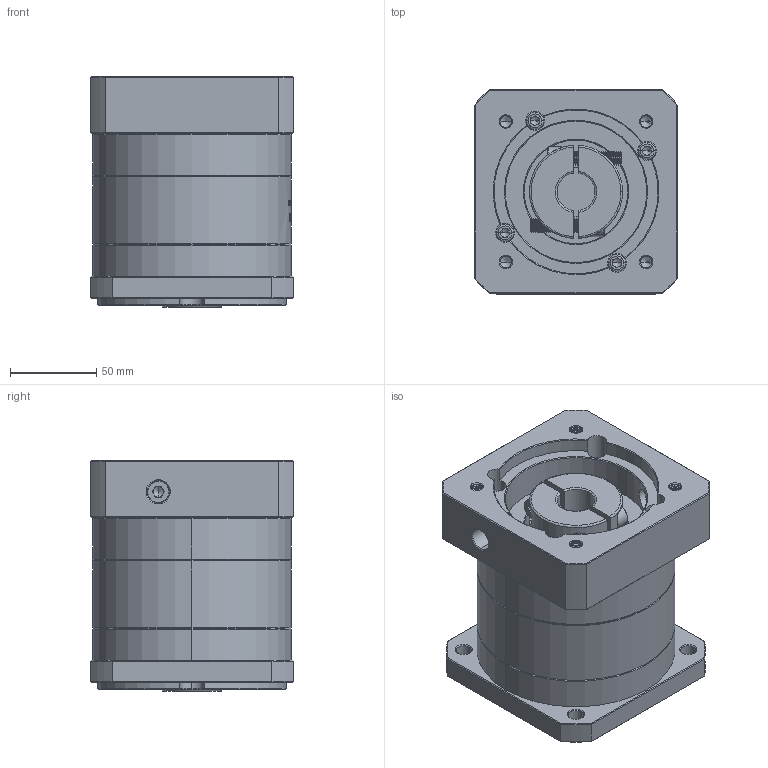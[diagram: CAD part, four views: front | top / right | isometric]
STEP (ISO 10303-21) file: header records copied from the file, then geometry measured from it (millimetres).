
FILE_DESCRIPTION (( 'STEP AP214' ), '1' );
FILE_NAME ('ZF120A-K25-L1-22-95-115-M8.step', '2023-03-07T09:36:50', ( '' ), ( '' ), 'SwSTEP 2.0', 'SolidWorks 2016', '' );
FILE_SCHEMA (( 'AUTOMOTIVE_DESIGN' ));
Length unit declared in the file: millimetre
Products named in the file (1): ZF120A-K25-L1-22-95-115-M8
Bounding box: 118 x 118 x 133.5 mm (x, y, z)
Volume: 1316699.8 mm3; surface area: 156719.6 mm2
Topology: 6 solids, 6 shells, 1903 faces, 4992 edges, 3183 vertices
Faces by surface type: plane 850, cylinder 396, bspline 332, cone 325
Entity records: 101898 total; most frequent: CARTESIAN_POINT 37742, ORIENTED_EDGE 9928, DIRECTION 7701, EDGE_CURVE 4964, VERTEX_POINT 3183, VECTOR 2697, LINE 2697, AXIS2_PLACEMENT_3D 2502
